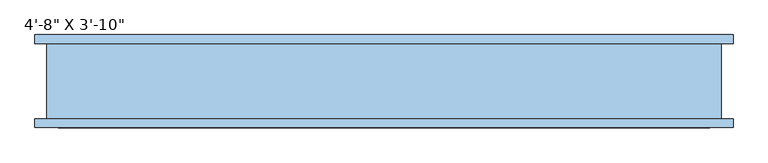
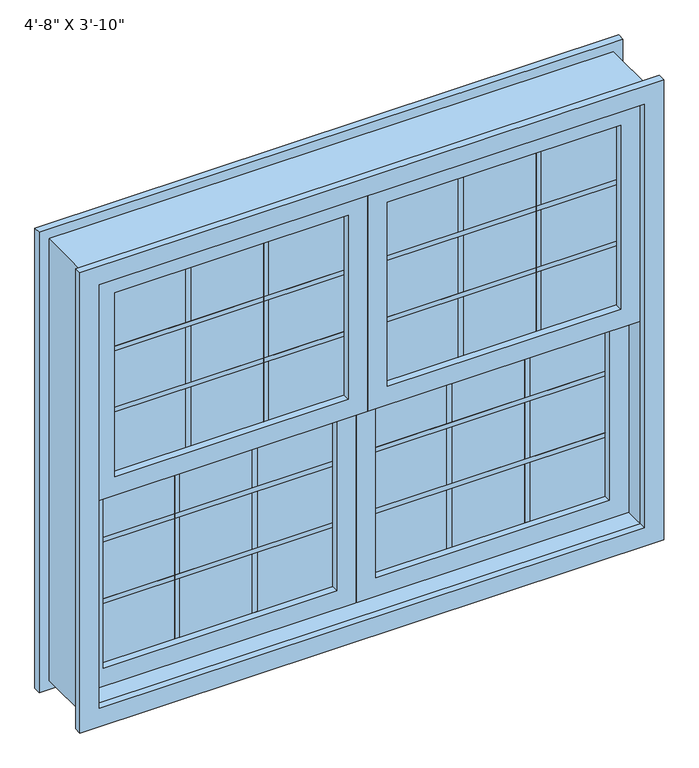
"""IFC4 building model written with IfcOpenShell, lengths in millimetres: window geometry."""

from ifc_helpers import new_model, si_unit, frame, origin, place, context, project, spatial, polyline, outline, extrude, source, transform, mapped, element, save


def window_8e291759(model_context):
    return source(origin(), model_context, "Body", "SweptSolid", [
        extrude(outline(polyline([(1981.2, 0.0), (1371.6, 0.0), (1371.6, 711.2), (1981.2, 711.2), (1981.2, 0.0)]), holes=[polyline([(1930.4, 50.8), (1930.4, 660.4), (1422.4, 660.4), (1422.4, 50.8), (1930.4, 50.8)])]), frame((0.0, -82.55, 0.0), z_axis=(0.0, 1.0, 0.0), x_axis=(0.0, 0.0, 1.0)), (0.0, 0.0, 1.0), 50.8),
        extrude(outline(polyline([(660.4, 0.0), (660.4, -12.7), (50.8, -12.7), (50.8, 0.0), (660.4, 0.0)])), frame((0.0, 0.0, 1195.9166667), z_axis=(0.0, 0.0, 1.0), x_axis=(1.0, 0.0, 0.0)), (0.0, 0.0, 1.0), 12.7),
        extrude(outline(polyline([(660.4, 0.0), (660.4, -12.7), (50.8, -12.7), (50.8, 0.0), (660.4, 0.0)])), frame((0.0, 0.0, 1026.5833333), z_axis=(0.0, 0.0, 1.0), x_axis=(1.0, 0.0, 0.0)), (0.0, 0.0, 1.0), 12.7),
        extrude(outline(polyline([(660.4, -50.8), (660.4, -63.5), (50.8, -63.5), (50.8, -50.8), (660.4, -50.8)])), frame((0.0, 0.0, 1754.7166667), z_axis=(0.0, 0.0, 1.0), x_axis=(1.0, 0.0, 0.0)), (0.0, 0.0, 1.0), 12.7),
        extrude(outline(polyline([(660.4, -50.8), (660.4, -63.5), (50.8, -63.5), (50.8, -50.8), (660.4, -50.8)])), frame((0.0, 0.0, 1585.3833333), z_axis=(0.0, 0.0, 1.0), x_axis=(1.0, 0.0, 0.0)), (0.0, 0.0, 1.0), 12.7),
        extrude(outline(polyline([(260.35, -50.8), (260.35, -63.5), (247.65, -63.5), (247.65, -50.8), (260.35, -50.8)])), frame((0.0, 0.0, 1422.4), z_axis=(0.0, 0.0, 1.0), x_axis=(1.0, 0.0, 0.0)), (0.0, 0.0, 1.0), 508.0),
        extrude(outline(polyline([(463.55, -50.8), (463.55, -63.5), (450.85, -63.5), (450.85, -50.8), (463.55, -50.8)])), frame((0.0, 0.0, 1422.4), z_axis=(0.0, 0.0, 1.0), x_axis=(1.0, 0.0, 0.0)), (0.0, 0.0, 1.0), 508.0),
        extrude(outline(polyline([(660.4, -50.8), (660.4, -63.5), (50.8, -63.5), (50.8, -50.8), (660.4, -50.8)])), frame((0.0, 0.0, 1422.4), z_axis=(0.0, 0.0, 1.0), x_axis=(1.0, 0.0, 0.0)), (0.0, 0.0, 1.0), 508.0),
        extrude(outline(polyline([(260.35, 0.0), (260.35, -12.7), (247.65, -12.7), (247.65, 0.0), (260.35, 0.0)])), frame((0.0, 0.0, 863.6), z_axis=(0.0, 0.0, 1.0), x_axis=(1.0, 0.0, 0.0)), (0.0, 0.0, 1.0), 508.0),
        extrude(outline(polyline([(463.55, 0.0), (463.55, -12.7), (450.85, -12.7), (450.85, 0.0), (463.55, 0.0)])), frame((0.0, 0.0, 863.6), z_axis=(0.0, 0.0, 1.0), x_axis=(1.0, 0.0, 0.0)), (0.0, 0.0, 1.0), 508.0),
        extrude(outline(polyline([(660.4, 0.0), (660.4, -12.7), (50.8, -12.7), (50.8, 0.0), (660.4, 0.0)])), frame((0.0, 0.0, 863.6), z_axis=(0.0, 0.0, 1.0), x_axis=(1.0, 0.0, 0.0)), (0.0, 0.0, 1.0), 508.0),
        extrude(outline(polyline([(1422.4, 711.2), (1422.4, 0.0), (812.8, 0.0), (812.8, 711.2), (1422.4, 711.2)]), holes=[polyline([(1371.6, 50.8), (1371.6, 660.4), (863.6, 660.4), (863.6, 50.8), (1371.6, 50.8)])]), frame((0.0, -31.75, 0.0), z_axis=(0.0, 1.0, 0.0), x_axis=(0.0, 0.0, 1.0)), (0.0, 0.0, 1.0), 50.8),
        extrude(outline(polyline([(1981.2, -711.2), (1371.6, -711.2), (1371.6, 0.0), (1981.2, 0.0), (1981.2, -711.2)]), holes=[polyline([(1930.4, -660.4), (1930.4, -50.8), (1422.4, -50.8), (1422.4, -660.4), (1930.4, -660.4)])]), frame((0.0, -82.55, 0.0), z_axis=(0.0, 1.0, 0.0), x_axis=(0.0, 0.0, 1.0)), (0.0, 0.0, 1.0), 50.8),
        extrude(outline(polyline([(-50.8, 0.0), (-50.8, -12.7), (-660.4, -12.7), (-660.4, 0.0), (-50.8, 0.0)])), frame((0.0, 0.0, 1195.9166667), z_axis=(0.0, 0.0, 1.0), x_axis=(1.0, 0.0, 0.0)), (0.0, 0.0, 1.0), 12.7),
        extrude(outline(polyline([(-50.8, 0.0), (-50.8, -12.7), (-660.4, -12.7), (-660.4, 0.0), (-50.8, 0.0)])), frame((0.0, 0.0, 1026.5833333), z_axis=(0.0, 0.0, 1.0), x_axis=(1.0, 0.0, 0.0)), (0.0, 0.0, 1.0), 12.7),
        extrude(outline(polyline([(-50.8, -50.8), (-50.8, -63.5), (-660.4, -63.5), (-660.4, -50.8), (-50.8, -50.8)])), frame((0.0, 0.0, 1754.7166667), z_axis=(0.0, 0.0, 1.0), x_axis=(1.0, 0.0, 0.0)), (0.0, 0.0, 1.0), 12.7),
        extrude(outline(polyline([(-50.8, -50.8), (-50.8, -63.5), (-660.4, -63.5), (-660.4, -50.8), (-50.8, -50.8)])), frame((0.0, 0.0, 1585.3833333), z_axis=(0.0, 0.0, 1.0), x_axis=(1.0, 0.0, 0.0)), (0.0, 0.0, 1.0), 12.7),
        extrude(outline(polyline([(-450.85, -50.8), (-450.85, -63.5), (-463.55, -63.5), (-463.55, -50.8), (-450.85, -50.8)])), frame((0.0, 0.0, 1422.4), z_axis=(0.0, 0.0, 1.0), x_axis=(1.0, 0.0, 0.0)), (0.0, 0.0, 1.0), 508.0),
        extrude(outline(polyline([(-247.65, -50.8), (-247.65, -63.5), (-260.35, -63.5), (-260.35, -50.8), (-247.65, -50.8)])), frame((0.0, 0.0, 1422.4), z_axis=(0.0, 0.0, 1.0), x_axis=(1.0, 0.0, 0.0)), (0.0, 0.0, 1.0), 508.0),
        extrude(outline(polyline([(-50.8, -50.8), (-50.8, -63.5), (-660.4, -63.5), (-660.4, -50.8), (-50.8, -50.8)])), frame((0.0, 0.0, 1422.4), z_axis=(0.0, 0.0, 1.0), x_axis=(1.0, 0.0, 0.0)), (0.0, 0.0, 1.0), 508.0),
        extrude(outline(polyline([(-450.85, 0.0), (-450.85, -12.7), (-463.55, -12.7), (-463.55, 0.0), (-450.85, 0.0)])), frame((0.0, 0.0, 863.6), z_axis=(0.0, 0.0, 1.0), x_axis=(1.0, 0.0, 0.0)), (0.0, 0.0, 1.0), 508.0),
        extrude(outline(polyline([(-247.65, 0.0), (-247.65, -12.7), (-260.35, -12.7), (-260.35, 0.0), (-247.65, 0.0)])), frame((0.0, 0.0, 863.6), z_axis=(0.0, 0.0, 1.0), x_axis=(1.0, 0.0, 0.0)), (0.0, 0.0, 1.0), 508.0),
        extrude(outline(polyline([(-50.8, 0.0), (-50.8, -12.7), (-660.4, -12.7), (-660.4, 0.0), (-50.8, 0.0)])), frame((0.0, 0.0, 863.6), z_axis=(0.0, 0.0, 1.0), x_axis=(1.0, 0.0, 0.0)), (0.0, 0.0, 1.0), 508.0),
        extrude(outline(polyline([(1422.4, 0.0), (1422.4, -711.2), (812.8, -711.2), (812.8, 0.0), (1422.4, 0.0)]), holes=[polyline([(1371.6, -660.4), (1371.6, -50.8), (863.6, -50.8), (863.6, -660.4), (1371.6, -660.4)])]), frame((0.0, -31.75, 0.0), z_axis=(0.0, 1.0, 0.0), x_axis=(0.0, 0.0, 1.0)), (0.0, 0.0, 1.0), 50.8),
        extrude(outline(polyline([(2032.0, -762.0), (762.0, -762.0), (762.0, 762.0), (2032.0, 762.0), (2032.0, -762.0)]), holes=[polyline([(1981.2, -711.2), (1981.2, 711.2), (812.8, 711.2), (812.8, -711.2), (1981.2, -711.2)])]), frame((0.0, 82.55, 0.0), z_axis=(0.0, 1.0, 0.0), x_axis=(0.0, 0.0, 1.0)), (0.0, 0.0, 1.0), 19.05),
        extrude(outline(polyline([(2032.0, -762.0), (762.0, -762.0), (762.0, 762.0), (2032.0, 762.0), (2032.0, -762.0)]), holes=[polyline([(1981.2, -711.2), (1981.2, 711.2), (812.8, 711.2), (812.8, -711.2), (1981.2, -711.2)])]), frame((0.0, -101.6, 0.0), z_axis=(0.0, 1.0, 0.0), x_axis=(0.0, 0.0, 1.0)), (0.0, 0.0, 1.0), 19.05),
        extrude(outline(polyline([(2006.6, 736.6), (2006.6, -736.6), (787.4, -736.6), (787.4, 736.6), (2006.6, 736.6)]), holes=[polyline([(1981.2, -711.2), (1981.2, 711.2), (812.8, 711.2), (812.8, -711.2), (1981.2, -711.2)])]), frame((0.0, -82.55, 0.0), z_axis=(0.0, 1.0, 0.0), x_axis=(0.0, 0.0, 1.0)), (0.0, 0.0, 1.0), 165.1),
    ])


if __name__ == "__main__":
    model = new_model("IFC4")
    model_context = context("Model", 3, world=origin())
    ifc_project = project(units=[si_unit("LENGTHUNIT", "METRE", prefix="MILLI")], contexts=[model_context])
    site = spatial("IfcSite", under=ifc_project)
    building = spatial("IfcBuilding", under=site)
    placement = place(None, origin())
    window_shape = window_8e291759(model_context)
    element("IfcWindow", 1, ObjectType="C_Double Window Guilotine : 4'-8\" X 3'-10\"", at=placement, inside=building, context=model_context, shape_type="MappedRepresentation", body=[
        mapped(window_shape, transform((0.0, 0.0, 0.0), x_axis=(1.0, 0.0, 0.0), y_axis=(0.0, 1.0, 0.0), z_axis=(0.0, 0.0, 1.0))),
    ])
    save(model, "model.ifc")
